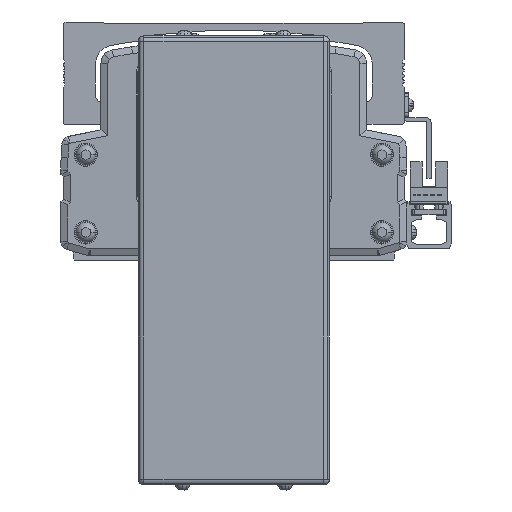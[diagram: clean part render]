
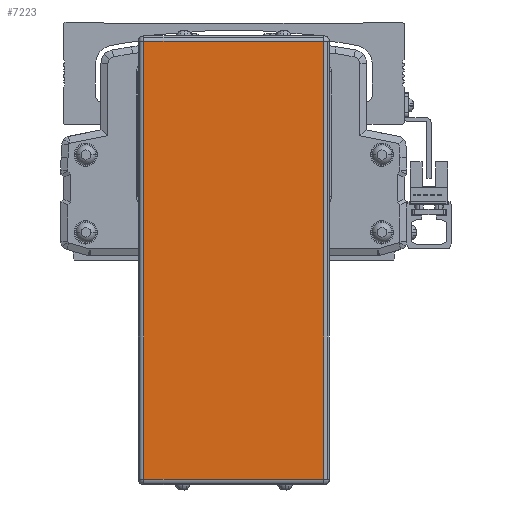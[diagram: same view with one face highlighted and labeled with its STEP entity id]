
A CAD part, front view. The second image highlights one B-rep face of the part: STEP entity #7223.
In plain terms, the highlighted planar face has unit normal (0, -1, 0).
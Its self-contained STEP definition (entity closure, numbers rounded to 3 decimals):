
#7223=ADVANCED_FACE('',(#14834),#14835,.T.);
#14834=FACE_OUTER_BOUND('',#24167,.T.);
#14835=PLANE('',#24168);
#24167=EDGE_LOOP('',(#45343,#45344,#45345,#45346));
#24168=AXIS2_PLACEMENT_3D('',#45347,#45348,#45349);
#45343=ORIENTED_EDGE('',*,*,#57423,.F.);
#45344=ORIENTED_EDGE('',*,*,#57424,.F.);
#45345=ORIENTED_EDGE('',*,*,#50593,.F.);
#45346=ORIENTED_EDGE('',*,*,#54711,.F.);
#45347=CARTESIAN_POINT('',(-299.996,-63.778,-49.1));
#45348=DIRECTION('',(0.,-1.0,0.));
#45349=DIRECTION('',(1.0,0.,0.));
#50593=EDGE_CURVE('',#61058,#60285,#61060,.T.);
#54711=EDGE_CURVE('',#67516,#61058,#67518,.T.);
#57423=EDGE_CURVE('',#68810,#67516,#70815,.T.);
#57424=EDGE_CURVE('',#60285,#68810,#70816,.T.);
#60285=VERTEX_POINT('',#74556);
#61058=VERTEX_POINT('',#75643);
#61060=LINE('',#75645,#75646);
#67516=VERTEX_POINT('',#85245);
#67518=LINE('',#85247,#85248);
#68810=VERTEX_POINT('',#87123);
#70815=LINE('',#89955,#89956);
#70816=LINE('',#89957,#89958);
#74556=CARTESIAN_POINT('',(-332.496,-63.778,30.));
#75643=CARTESIAN_POINT('',(-332.496,-63.778,-128.2));
#75645=CARTESIAN_POINT('',(-332.496,-63.778,-49.1));
#75646=VECTOR('',#92951,10.0);
#85245=CARTESIAN_POINT('',(-267.496,-63.778,-128.2));
#85247=CARTESIAN_POINT('',(-299.996,-63.778,-128.2));
#85248=VECTOR('',#98030,10.0);
#87123=CARTESIAN_POINT('',(-267.496,-63.778,30.));
#89955=CARTESIAN_POINT('',(-267.496,-63.778,-49.1));
#89956=VECTOR('',#100753,10.0);
#89957=CARTESIAN_POINT('',(-299.996,-63.778,30.));
#89958=VECTOR('',#100754,10.0);
#92951=DIRECTION('',(0.0,0.,1.0));
#98030=DIRECTION('',(-1.0,0.,0.));
#100753=DIRECTION('',(0.0,0.,-1.0));
#100754=DIRECTION('',(1.0,0.,0.));
